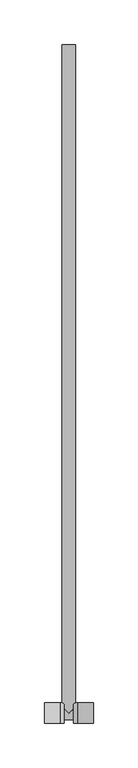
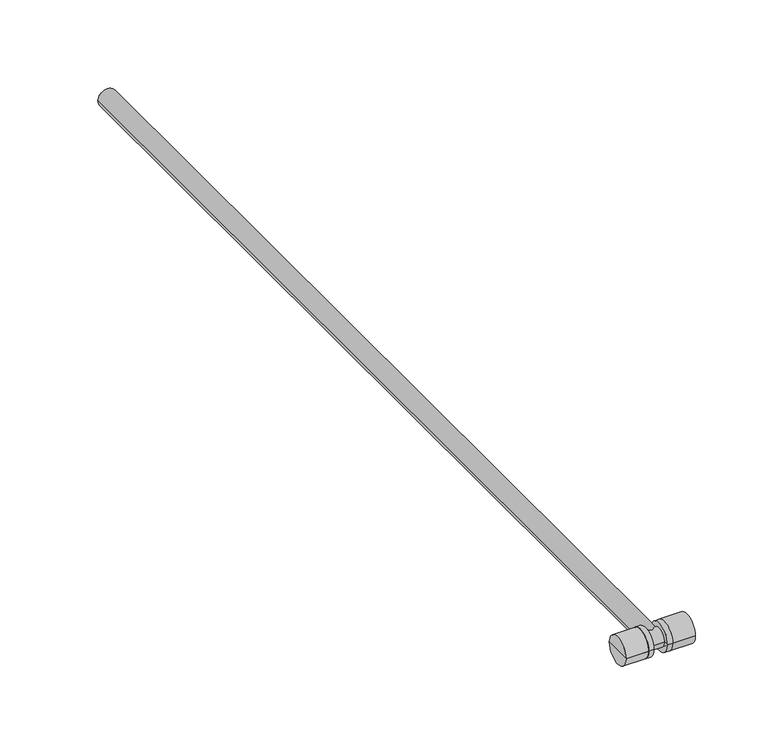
"""IFC4 building model written with IfcOpenShell, lengths in millimetres: pipe fitting geometry, KAN-therm Push trójnik z rurą Cu15 L=750 : KAN-therm Push trójnik z rurą Cu15 L=750."""

from ifc_helpers import new_model, si_unit, frame, origin, place, context, project, spatial, circle_curve, ellipse_curve, source, transform, mapped, element, save
from ifc_brep_helpers import plane_surface, cylinder_surface, advanced_brep


def pipe_fitting_66cee5d1(model_context):
    return source(origin(), model_context, "Body", "AdvancedBrep", [
        advanced_brep(
        [(-9.5, -11.5, 0.0), (-9.5, 0.0, 0.0), (-9.5, 11.5, 0.0), (-5.5, -11.5, 0.0), (-5.5, 11.5, 0.0), (-5.5, 0.0, 0.0)],
        [
            (0, 1),
            (1, 2),
            (2, 0, circle_curve(frame((-9.5, 0.0, 0.0), z_axis=(-1.0, 0.0, 0.0), x_axis=(0.0, 1.0, 0.0)), 11.5)),
            (0, 2, circle_curve(frame((-9.5, 0.0, 0.0), z_axis=(-1.0, 0.0, 0.0), x_axis=(0.0, 1.0, 0.0)), 11.5)),
            (3, 0),
            (2, 4),
            (4, 3, circle_curve(frame((-5.5, 0.0, 0.0), z_axis=(-1.0, 0.0, 0.0), x_axis=(0.0, 1.0, 0.0)), 11.5)),
            (3, 4, circle_curve(frame((-5.5, 0.0, 0.0), z_axis=(-1.0, 0.0, 0.0), x_axis=(0.0, 1.0, 0.0)), 11.5)),
            (5, 3),
            (4, 5),
        ],
        [
            plane_surface(frame((-9.5, 0.0, 0.0), z_axis=(-1.0, 0.0, 0.0), x_axis=(0.0, 1.0, 0.0))),
            cylinder_surface(frame((-2004.5, 0.0, 0.0), z_axis=(1.0, 0.0, 0.0), x_axis=(0.0, 1.0, 0.0)), 11.5),
            plane_surface(frame((-5.5, 0.0, 0.0), z_axis=(1.0, 0.0, 0.0), x_axis=(0.0, 1.0, 0.0))),
        ],
        [
            (0, [[1, 2, 3]]),
            (0, [[-2, -1, 4]]),
            (1, [[5, -3, 6, 7]]),
            (1, [[-6, -4, -5, 8]]),
            (2, [[9, -7, 10]]),
            (2, [[-10, -8, -9]]),
        ],
    ),
        advanced_brep(
        [(-27.5, -11.5, 0.0), (-27.5, 0.0, 0.0), (-27.5, 11.5, 0.0), (-9.5, -11.5, 0.0), (-9.5, 11.5, 0.0), (-9.5, 0.0, 0.0)],
        [
            (0, 1),
            (1, 2),
            (2, 0, circle_curve(frame((-27.5, 0.0, 0.0), z_axis=(-1.0, 0.0, 0.0), x_axis=(0.0, 1.0, 0.0)), 11.5)),
            (0, 2, circle_curve(frame((-27.5, 0.0, 0.0), z_axis=(-1.0, 0.0, 0.0), x_axis=(0.0, 1.0, 0.0)), 11.5)),
            (3, 0),
            (2, 4),
            (4, 3, circle_curve(frame((-9.5, 0.0, 0.0), z_axis=(-1.0, 0.0, 0.0), x_axis=(0.0, 1.0, 0.0)), 11.5)),
            (3, 4, circle_curve(frame((-9.5, 0.0, 0.0), z_axis=(-1.0, 0.0, 0.0), x_axis=(0.0, 1.0, 0.0)), 11.5)),
            (5, 3),
            (4, 5),
        ],
        [
            plane_surface(frame((-27.5, 0.0, 0.0), z_axis=(-1.0, 0.0, 0.0), x_axis=(0.0, 1.0, 0.0))),
            cylinder_surface(frame((-2004.5, 0.0, 0.0), z_axis=(1.0, 0.0, 0.0), x_axis=(0.0, 1.0, 0.0)), 11.5),
            plane_surface(frame((-9.5, 0.0, 0.0), z_axis=(1.0, 0.0, 0.0), x_axis=(0.0, 1.0, 0.0))),
        ],
        [
            (0, [[1, 2, 3]]),
            (0, [[-2, -1, 4]]),
            (1, [[5, -3, 6, 7]]),
            (1, [[-6, -4, -5, 8]]),
            (2, [[9, -7, 10]]),
            (2, [[-10, -8, -9]]),
        ],
    ),
        advanced_brep(
        [(9.5, -11.5, 0.0), (9.5, 11.5, 0.0), (9.5, 0.0, 0.0), (5.5, -11.5, 0.0), (5.5, 11.5, 0.0), (5.5, 0.0, 0.0)],
        [
            (0, 1, circle_curve(frame((9.5, 0.0, 0.0), z_axis=(1.0, 0.0, 0.0), x_axis=(0.0, 1.0, 0.0)), 11.5)),
            (1, 2),
            (2, 0),
            (1, 0, circle_curve(frame((9.5, 0.0, 0.0), z_axis=(1.0, 0.0, 0.0), x_axis=(0.0, 1.0, 0.0)), 11.5)),
            (3, 4, circle_curve(frame((5.5, 0.0, 0.0), z_axis=(1.0, 0.0, 0.0), x_axis=(0.0, 1.0, 0.0)), 11.5)),
            (4, 1),
            (0, 3),
            (4, 3, circle_curve(frame((5.5, 0.0, 0.0), z_axis=(1.0, 0.0, 0.0), x_axis=(0.0, 1.0, 0.0)), 11.5)),
            (5, 4),
            (3, 5),
        ],
        [
            plane_surface(frame((9.5, 0.0, 0.0), z_axis=(1.0, 0.0, 0.0), x_axis=(0.0, 1.0, 0.0))),
            cylinder_surface(frame((2004.5, 0.0, 0.0), z_axis=(-1.0, 0.0, 0.0), x_axis=(0.0, 1.0, 0.0)), 11.5),
            plane_surface(frame((5.5, 0.0, 0.0), z_axis=(-1.0, 0.0, 0.0), x_axis=(0.0, 1.0, 0.0))),
        ],
        [
            (0, [[1, 2, 3]]),
            (0, [[4, -3, -2]]),
            (1, [[5, 6, -1, 7]]),
            (1, [[8, -7, -4, -6]]),
            (2, [[9, -5, 10]]),
            (2, [[-10, -8, -9]]),
        ],
    ),
        advanced_brep(
        [(27.5, -11.5, 0.0), (27.5, 11.5, 0.0), (27.5, 0.0, 0.0), (9.5, -11.5, 0.0), (9.5, 11.5, 0.0), (9.5, 0.0, 0.0)],
        [
            (0, 1, circle_curve(frame((27.5, 0.0, 0.0), z_axis=(1.0, 0.0, 0.0), x_axis=(0.0, 1.0, 0.0)), 11.5)),
            (1, 2),
            (2, 0),
            (1, 0, circle_curve(frame((27.5, 0.0, 0.0), z_axis=(1.0, 0.0, 0.0), x_axis=(0.0, 1.0, 0.0)), 11.5)),
            (3, 4, circle_curve(frame((9.5, 0.0, 0.0), z_axis=(1.0, 0.0, 0.0), x_axis=(0.0, 1.0, 0.0)), 11.5)),
            (4, 1),
            (0, 3),
            (4, 3, circle_curve(frame((9.5, 0.0, 0.0), z_axis=(1.0, 0.0, 0.0), x_axis=(0.0, 1.0, 0.0)), 11.5)),
            (5, 4),
            (3, 5),
        ],
        [
            plane_surface(frame((27.5, 0.0, 0.0), z_axis=(1.0, 0.0, 0.0), x_axis=(0.0, 1.0, 0.0))),
            cylinder_surface(frame((2004.5, 0.0, 0.0), z_axis=(-1.0, 0.0, 0.0), x_axis=(0.0, 1.0, 0.0)), 11.5),
            plane_surface(frame((9.5, 0.0, 0.0), z_axis=(-1.0, 0.0, 0.0), x_axis=(0.0, 1.0, 0.0))),
        ],
        [
            (0, [[1, 2, 3]]),
            (0, [[4, -3, -2]]),
            (1, [[5, 6, -1, 7]]),
            (1, [[8, -7, -4, -6]]),
            (2, [[9, -5, 10]]),
            (2, [[-10, -8, -9]]),
        ],
    ),
        advanced_brep(
        [(-7.5, 750.0, 0.0), (7.5, 750.0, 0.0), (7.5, 7.5, 0.0), (0.0, 0.0, -7.5), (-7.5, 7.5, 0.0), (0.0, 0.0, 7.5), (0.0, 750.0, 0.0), (9.5, -7.5, 0.0), (9.5, 7.5, 0.0), (9.5, 0.0, 0.0), (-9.5, 0.0, 0.0), (-9.5, 7.5, 0.0), (-9.5, -7.5, 0.0)],
        [
            (0, 1, circle_curve(frame((0.0, 750.0, 0.0), z_axis=(0.0, -1.0, 0.0), x_axis=(1.0, 0.0, 0.0)), 7.5)),
            (1, 2),
            (2, 3, ellipse_curve(frame((0.0, 0.0, 0.0), z_axis=(-0.7071067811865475, 0.7071067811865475, 0.0), x_axis=(0.7071067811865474, 0.7071067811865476, 0.0)), 10.6066017, 7.5)),
            (3, 4, ellipse_curve(frame((0.0, 0.0, 0.0), z_axis=(0.7071067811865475, 0.7071067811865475, 0.0), x_axis=(-0.7071067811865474, 0.7071067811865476, 0.0)), 10.6066017, 7.5)),
            (4, 0),
            (1, 0, circle_curve(frame((0.0, 750.0, 0.0), z_axis=(0.0, -1.0, 0.0), x_axis=(1.0, 0.0, 0.0)), 7.5)),
            (4, 5, ellipse_curve(frame((0.0, 0.0, 0.0), z_axis=(0.7071067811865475, 0.7071067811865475, 0.0), x_axis=(-0.7071067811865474, 0.7071067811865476, 0.0)), 10.6066017, 7.5)),
            (5, 2, ellipse_curve(frame((0.0, 0.0, 0.0), z_axis=(-0.7071067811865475, 0.7071067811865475, 0.0), x_axis=(0.7071067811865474, 0.7071067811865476, 0.0)), 10.6066017, 7.5)),
            (0, 6),
            (6, 1),
            (7, 8, circle_curve(frame((9.5, 0.0, 0.0), z_axis=(1.0, 0.0, 0.0), x_axis=(0.0, 1.0, 0.0)), 7.5)),
            (8, 9),
            (9, 7),
            (8, 7, circle_curve(frame((9.5, 0.0, 0.0), z_axis=(1.0, 0.0, 0.0), x_axis=(0.0, 1.0, 0.0)), 7.5)),
            (10, 11),
            (11, 12, circle_curve(frame((-9.5, 0.0, 0.0), z_axis=(-1.0, 0.0, 0.0), x_axis=(0.0, 1.0, 0.0)), 7.5)),
            (12, 10),
            (12, 11, circle_curve(frame((-9.5, 0.0, 0.0), z_axis=(-1.0, 0.0, 0.0), x_axis=(0.0, 1.0, 0.0)), 7.5)),
            (7, 12),
            (11, 4),
            (2, 8),
        ],
        [
            cylinder_surface(frame((0.0, 2450.0, 0.0), z_axis=(0.0, 1.0, 0.0), x_axis=(1.0, 0.0, 0.0)), 7.5),
            plane_surface(frame((0.0, 750.0, 0.0), z_axis=(0.0, 1.0, 0.0), x_axis=(1.0, 0.0, 0.0))),
            plane_surface(frame((9.5, 0.0, 0.0), z_axis=(1.0, 0.0, 0.0), x_axis=(0.0, 1.0, 0.0))),
            plane_surface(frame((-9.5, 0.0, 0.0), z_axis=(-1.0, 0.0, 0.0), x_axis=(0.0, 1.0, 0.0))),
            cylinder_surface(frame((2003.5, 0.0, 0.0), z_axis=(-1.0, 0.0, 0.0), x_axis=(0.0, 1.0, 0.0)), 7.5),
        ],
        [
            (0, [[1, 2, 3, 4, 5]]),
            (0, [[6, -5, 7, 8, -2]]),
            (1, [[-1, 9, 10]]),
            (1, [[-6, -10, -9]]),
            (2, [[11, 12, 13]]),
            (2, [[-12, 14, -13]]),
            (3, [[15, 16, 17]]),
            (3, [[-15, -17, 18]]),
            (4, [[-11, 19, -16, 20, -4, -3, 21]]),
            (4, [[-14, -21, -8, -7, -20, -18, -19]]),
        ],
    ),
    ])


if __name__ == "__main__":
    model = new_model("IFC4")
    model_context = context("Model", 3, world=origin())
    ifc_project = project(units=[si_unit("LENGTHUNIT", "METRE", prefix="MILLI")], contexts=[model_context])
    site = spatial("IfcSite", under=ifc_project)
    building = spatial("IfcBuilding", under=site)
    placement = place(None, origin())
    pipe_fitting_shape = pipe_fitting_66cee5d1(model_context)
    element("IfcPipeFitting", 1, ObjectType="KAN-therm Push trójnik z rurą Cu15 L=750 : KAN-therm Push trójnik z rurą Cu15 L=750", at=placement, inside=building, context=model_context, shape_type="MappedRepresentation", body=[
        mapped(pipe_fitting_shape, transform((0.0, 0.0, 0.0), x_axis=(1.0, 0.0, 0.0), y_axis=(0.0, 1.0, 0.0), z_axis=(0.0, 0.0, 1.0))),
    ])
    save(model, "model.ifc")
